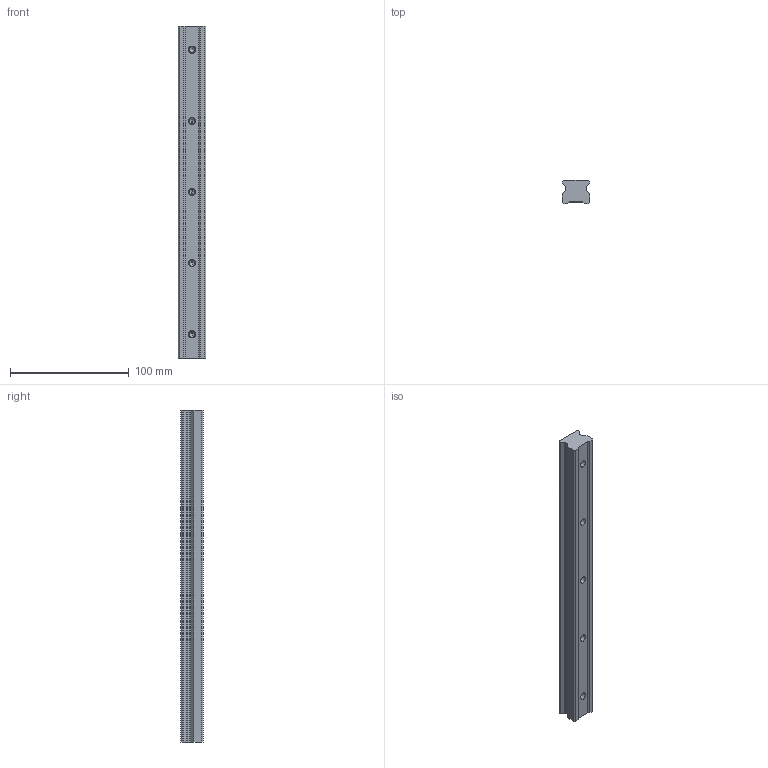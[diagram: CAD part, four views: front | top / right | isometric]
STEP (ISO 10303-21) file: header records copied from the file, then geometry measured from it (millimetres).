
FILE_DESCRIPTION (( 'STEP AP203' ), '1' );
FILE_NAME ('L1016.BRF25-0280.step', '2019-06-13T08:34:16', ( '' ), ( '' ), 'SwSTEP 2.0', 'SolidWorks 2017', '' );
FILE_SCHEMA (( 'CONFIG_CONTROL_DESIGN' ));
Length unit declared in the file: millimetre
Products named in the file (1): L1016.BRF25-0280
Bounding box: 23 x 19.2 x 280 mm (x, y, z)
Volume: 106782.2 mm3; surface area: 26553.8 mm2
Topology: 1 solids, 1 shells, 61 faces, 152 edges, 93 vertices
Faces by surface type: plane 27, cylinder 24, cone 10
Entity records: 1821 total; most frequent: DIRECTION 314, CARTESIAN_POINT 297, ORIENTED_EDGE 284, EDGE_CURVE 142, AXIS2_PLACEMENT_3D 110, VECTOR 94, LINE 94, VERTEX_POINT 93
